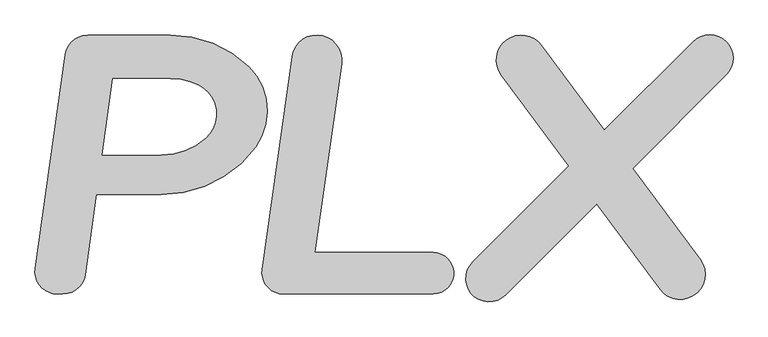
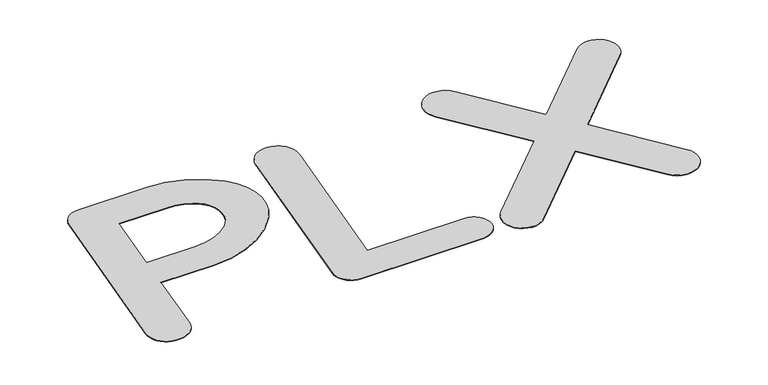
"""IFC4 building model written with IfcOpenShell, lengths in millimetres: proxy geometry, lOGO : lOGO."""

from ifc_helpers import new_model, si_unit, point, frame_2d, origin, origin_with_axes, place, context, project, spatial, polyline, circle_curve, trimmed, segment, composite_curve, outline, extrude, source, transform, mapped, element, save


def generic_models_3887f2f6(model_context):
    return source(origin(), model_context, "Body", "SweptSolid", [
        extrude(outline(composite_curve([segment(trimmed(circle_curve(frame_2d((-6401.5258101, 8290.2629513)), 156.5257856), [point((-6556.5282975, 8312.0471302))], [point((-6401.5258101, 8446.7887369))], False, "CARTESIAN"), True, "CONTINUOUS"), segment(polyline([(-6401.5258101, 8446.7887369), (-5825.510919, 8446.7887369)]), True, "CONTINUOUS"), segment(trimmed(circle_curve(frame_2d((-5825.510919, 7662.5876333)), 784.2011036), [point((-5825.510919, 8446.7887369))], [point((-5282.4834866, 8228.354881))], False, "CARTESIAN"), True, "CONTINUOUS"), segment(trimmed(circle_curve(frame_2d((-5577.2981746, 7921.1945339)), 425.7501369), [point((-5282.4834866, 8228.354881))], [point((-5233.9779021, 7669.4121486))], False, "CARTESIAN"), True, "CONTINUOUS"), segment(trimmed(circle_curve(frame_2d((-5888.6064179, 8149.5001085)), 811.8022807), [point((-5233.9779021, 7669.4121486))], [point((-5888.6064179, 7337.6978278))], False, "CARTESIAN"), True, "CONTINUOUS"), segment(polyline([(-5888.6064179, 7337.6978278), (-6339.4006805, 7337.6978278), (-6417.564923, 6781.5303436)]), True, "CONTINUOUS"), segment(trimmed(circle_curve(frame_2d((-6572.5674104, 6803.3145225)), 156.5257856), [point((-6417.564923, 6781.5303436))], [point((-6572.5674104, 6646.7887369))], False, "CARTESIAN"), True, "CONTINUOUS"), segment(polyline([(-6572.5674104, 6646.7887369), (-6610.5027834, 6646.7887369)]), True, "CONTINUOUS"), segment(trimmed(circle_curve(frame_2d((-6610.5027834, 6803.3145225)), 156.5257856), [point((-6610.5027834, 6646.7887369))], [point((-6765.5052709, 6825.0987015))], False, "CARTESIAN"), True, "CONTINUOUS"), segment(polyline([(-6765.5052709, 6825.0987015), (-6556.5282975, 8312.0471302)]), True, "CONTINUOUS")], self_intersect=False), holes=[composite_curve([segment(trimmed(circle_curve(frame_2d((-5825.510919, 7712.6758847)), 433.5833438), [point((-5629.8944696, 8099.6238408))], [point((-5825.510919, 8146.2592285))], True, "CARTESIAN"), True, "CONTINUOUS"), segment(polyline([(-5825.510919, 8146.2592285), (-6225.7647864, 8146.2592285), (-6300.6837349, 7613.1832105), (-5888.6064179, 7613.1832105)]), True, "CONTINUOUS"), segment(trimmed(circle_curve(frame_2d((-5888.6064179, 8074.3677314)), 461.1845209), [point((-5888.6064179, 7613.1832105))], [point((-5581.4832212, 7730.3233966))], True, "CARTESIAN"), True, "CONTINUOUS"), segment(trimmed(circle_curve(frame_2d((-5731.585153, 7898.46999)), 225.3971313), [point((-5581.4832212, 7730.3233966))], [point((-5629.8944696, 8099.6238408))], True, "CARTESIAN"), True, "CONTINUOUS")], self_intersect=False)]), origin_with_axes(), (0.0, 0.0, 1.0), 5.0),
        extrude(outline(composite_curve([segment(trimmed(circle_curve(frame_2d((-4808.7622326, 8274.1739091)), 173.6027859), [point((-4980.6755281, 8298.3347472))], [point((-4636.848937, 8250.0130711))], False, "CARTESIAN"), True, "CONTINUOUS"), segment(polyline([(-4636.848937, 8250.0130711), (-4821.6906164, 6934.7961825), (-4001.4428012, 6934.7961825)]), True, "CONTINUOUS"), segment(trimmed(circle_curve(frame_2d((-4001.4428012, 6790.7924597)), 144.0037228), [point((-4001.4428012, 6934.7961825))], [point((-4001.4428012, 6646.7887369))], False, "CARTESIAN"), True, "CONTINUOUS"), segment(polyline([(-4001.4428012, 6646.7887369), (-5039.925357, 6646.7887369)]), True, "CONTINUOUS"), segment(trimmed(circle_curve(frame_2d((-5039.925357, 6797.0534911)), 150.2647542), [point((-5039.925357, 6646.7887369))], [point((-5188.727745, 6817.9663029))], False, "CARTESIAN"), True, "CONTINUOUS"), segment(polyline([(-5188.727745, 6817.9663029), (-4980.6755281, 8298.3347472)]), True, "CONTINUOUS")], self_intersect=False)), origin_with_axes(), (0.0, 0.0, 1.0), 5.0),
        extrude(outline(composite_curve([segment(polyline([(-3059.101905, 7537.8334366), (-3527.5533352, 8170.5175438)]), True, "CONTINUOUS"), segment(trimmed(circle_curve(frame_2d((-3388.2023795, 8273.6956603)), 173.3909241), [point((-3527.5533352, 8170.5175438))], [point((-3248.8514239, 8376.8737767))], False, "CARTESIAN"), True, "CONTINUOUS"), segment(polyline([(-3248.8514239, 8376.8737767), (-2811.1777094, 7785.7576322), (-2195.1248655, 8401.8104761)]), True, "CONTINUOUS"), segment(trimmed(circle_curve(frame_2d((-2080.0172032, 8286.7028139)), 162.7868171), [point((-2195.1248655, 8401.8104761))], [point((-1964.909541, 8171.5951516))], False, "CARTESIAN"), True, "CONTINUOUS"), segment(polyline([(-1964.909541, 8171.5951516), (-2615.2986476, 7521.206045), (-2145.2351287, 6886.3446728)]), True, "CONTINUOUS"), segment(trimmed(circle_curve(frame_2d((-2284.5860844, 6783.1665564)), 173.3909241), [point((-2145.2351287, 6886.3446728))], [point((-2423.93704, 6679.98844))], False, "CARTESIAN"), True, "CONTINUOUS"), segment(polyline([(-2423.93704, 6679.98844), (-2863.2228432, 7273.2818495), (-3496.4298331, 6640.0748595)]), True, "CONTINUOUS"), segment(trimmed(circle_curve(frame_2d((-3611.5374954, 6755.1825218)), 162.7868171), [point((-3496.4298331, 6640.0748595))], [point((-3726.6451576, 6870.290184))], False, "CARTESIAN"), True, "CONTINUOUS"), segment(polyline([(-3726.6451576, 6870.290184), (-3059.101905, 7537.8334366)]), True, "CONTINUOUS")], self_intersect=False)), origin_with_axes(), (0.0, 0.0, 1.0), 5.0),
    ])


if __name__ == "__main__":
    model = new_model("IFC4")
    model_context = context("Model", 3, world=origin())
    ifc_project = project(units=[si_unit("LENGTHUNIT", "METRE", prefix="MILLI")], contexts=[model_context])
    site = spatial("IfcSite", under=ifc_project)
    building = spatial("IfcBuilding", under=site)
    placement = place(None, origin())
    generic_models_shape = generic_models_3887f2f6(model_context)
    element("IfcBuildingElementProxy", 1, Name="lOGO : lOGO", ObjectType="lOGO : lOGO", at=placement, inside=building, context=model_context, shape_type="MappedRepresentation", body=[
        mapped(generic_models_shape, transform((0.0, 0.0, 0.0), x_axis=(1.0, 0.0, 0.0), y_axis=(0.0, 1.0, 0.0), z_axis=(0.0, 0.0, 1.0))),
    ])
    save(model, "model.ifc")
